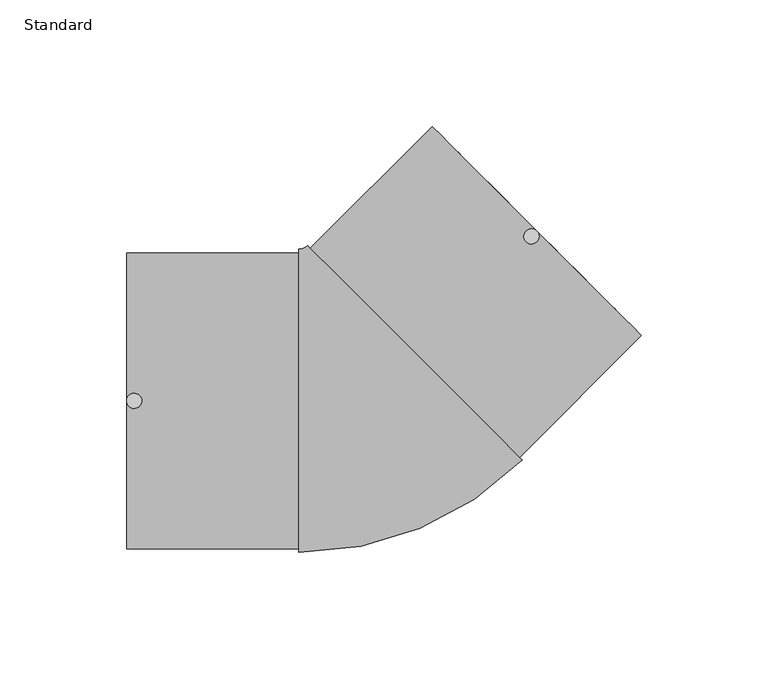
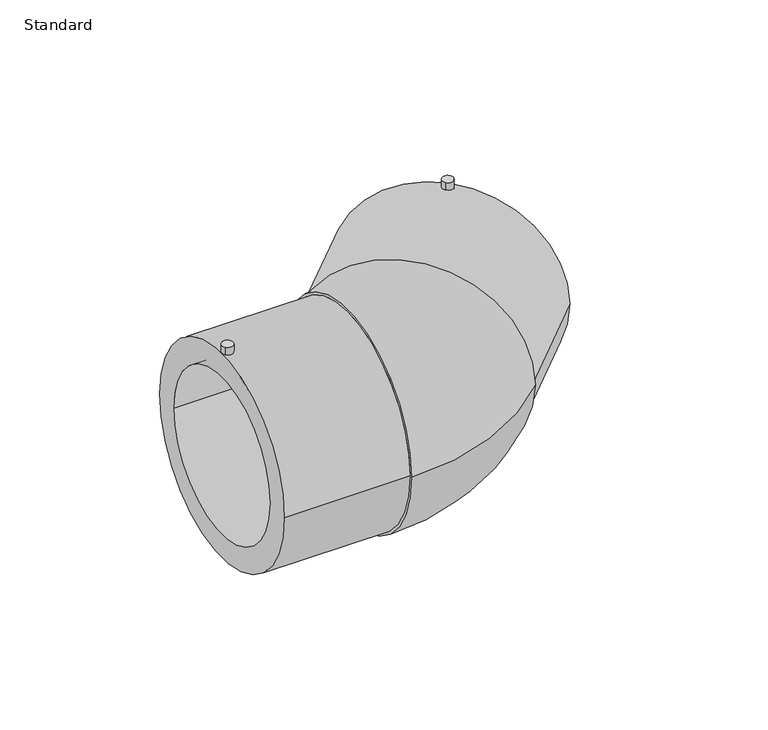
"""IFC4 building model written with IfcOpenShell, lengths in millimetres: pipe fitting geometry, EGB_VASEN_ PPR_Codo electrosoldable 90 WXRD200_Codo electrosoldable 45 WXRD220 : Standard."""

from ifc_helpers import new_model, si_unit, point, frame, frame_2d, origin, place, context, project, spatial, polyline, circle_curve, ellipse_curve, trimmed, segment, composite_curve, outline, extrude, source, transform, mapped, element, save
from ifc_brep_helpers import plane_surface, cylinder_surface, revolved_surface, advanced_brep


def standard_f251de4d(model_context):
    return source(origin(), model_context, "Body", "SolidModel", [
        advanced_brep(
        [(-95.0, -58.5, 0.0), (-95.0, 58.5, 0.0), (-95.0, -45.0, 0.0), (-95.0, 45.0, 0.0), (-26.8528137, -58.5, 0.0), (-26.8528137, 58.5, 0.0), (-26.8528137, -45.0, 0.0), (-26.8528137, 45.0, 0.0), (-26.8528137, -60.0, 0.0), (-26.8528137, 60.0, 0.0), (61.4142136, -23.4386002, 0.0), (-23.4386002, 61.4142136, 0.0), (60.3535534, -22.37794, 0.0), (-22.37794, 60.3535534, 0.0), (50.8076118, -12.8319985, 0.0), (-12.8319985, 50.8076118, 0.0), (108.5408909, 25.8093975, 0.0), (25.8093975, 108.5408909, 0.0), (98.9949494, 35.3553391, 0.0), (35.3553391, 98.9949494, 0.0)],
        [
            (0, 1, circle_curve(frame((-95.0, 0.0, 0.0), z_axis=(-1.0, 0.0, 0.0), x_axis=(0.0, 1.0, 0.0)), 58.5)),
            (1, 0, circle_curve(frame((-95.0, 0.0, 0.0), z_axis=(-1.0, 0.0, 0.0), x_axis=(0.0, 1.0, 0.0)), 58.5)),
            (2, 3, circle_curve(frame((-95.0, 0.0, 0.0), z_axis=(1.0, 0.0, 0.0), x_axis=(0.0, 1.0, 0.0)), 45.0)),
            (3, 2, circle_curve(frame((-95.0, 0.0, 0.0), z_axis=(1.0, 0.0, 0.0), x_axis=(0.0, 1.0, 0.0)), 45.0)),
            (0, 4),
            (4, 5, circle_curve(frame((-26.8528137, 0.0, 0.0), z_axis=(-1.0, 0.0, 0.0), x_axis=(0.0, 1.0, 0.0)), 58.5)),
            (5, 1),
            (5, 4, circle_curve(frame((-26.8528137, 0.0, 0.0), z_axis=(-1.0, 0.0, 0.0), x_axis=(0.0, 1.0, 0.0)), 58.5)),
            (2, 6),
            (6, 7, circle_curve(frame((-26.8528137, 0.0, 0.0), z_axis=(1.0, 0.0, 0.0), x_axis=(0.0, 1.0, 0.0)), 45.0)),
            (7, 3),
            (7, 6, circle_curve(frame((-26.8528137, 0.0, 0.0), z_axis=(1.0, 0.0, 0.0), x_axis=(0.0, 1.0, 0.0)), 45.0)),
            (8, 9, circle_curve(frame((-26.8528137, 0.0, 0.0), z_axis=(-1.0, 0.0, 0.0), x_axis=(0.0, 1.0, 0.0)), 60.0)),
            (9, 8, circle_curve(frame((-26.8528137, 0.0, 0.0), z_axis=(-1.0, 0.0, 0.0), x_axis=(0.0, 1.0, 0.0)), 60.0)),
            (10, 11, circle_curve(frame((18.9878067, 18.9878067, 0.0), z_axis=(0.7071067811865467, 0.7071067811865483, 0.0), x_axis=(-0.7071067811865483, 0.7071067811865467, 0.0)), 60.0)),
            (11, 10, circle_curve(frame((18.9878067, 18.9878067, 0.0), z_axis=(0.7071067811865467, 0.7071067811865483, 0.0), x_axis=(-0.7071067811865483, 0.7071067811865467, 0.0)), 60.0)),
            (12, 13, circle_curve(frame((18.9878067, 18.9878067, 0.0), z_axis=(-0.7071067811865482, -0.7071067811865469, 0.0), x_axis=(-0.7071067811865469, 0.7071067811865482, 0.0)), 58.5)),
            (13, 12, circle_curve(frame((18.9878067, 18.9878067, 0.0), z_axis=(-0.7071067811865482, -0.7071067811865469, 0.0), x_axis=(-0.7071067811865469, 0.7071067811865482, 0.0)), 58.5)),
            (14, 15, circle_curve(frame((18.9878067, 18.9878067, 0.0), z_axis=(0.7071067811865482, 0.7071067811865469, 0.0), x_axis=(-0.7071067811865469, 0.7071067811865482, 0.0)), 45.0)),
            (15, 14, circle_curve(frame((18.9878067, 18.9878067, 0.0), z_axis=(0.7071067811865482, 0.7071067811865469, 0.0), x_axis=(-0.7071067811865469, 0.7071067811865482, 0.0)), 45.0)),
            (8, 10, circle_curve(frame((-26.8528137, 64.8284271, 0.0), z_axis=(0.0, 0.0, 1.0), x_axis=(0.0, -1.0, 0.0)), 124.8284271)),
            (11, 9, circle_curve(frame((-26.8528137, 64.8284271, 0.0), z_axis=(0.0, 0.0, -1.0), x_axis=(0.0, -1.0, 0.0)), 4.8284271)),
            (16, 17, circle_curve(frame((67.1751442, 67.1751442, 0.0), z_axis=(0.7071067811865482, 0.7071067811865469, 0.0), x_axis=(-0.7071067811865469, 0.7071067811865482, 0.0)), 58.5)),
            (17, 16, circle_curve(frame((67.1751442, 67.1751442, 0.0), z_axis=(0.7071067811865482, 0.7071067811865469, 0.0), x_axis=(-0.7071067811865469, 0.7071067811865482, 0.0)), 58.5)),
            (18, 19, circle_curve(frame((67.1751442, 67.1751442, 0.0), z_axis=(-0.7071067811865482, -0.7071067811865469, 0.0), x_axis=(-0.7071067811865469, 0.7071067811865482, 0.0)), 45.0)),
            (19, 18, circle_curve(frame((67.1751442, 67.1751442, 0.0), z_axis=(-0.7071067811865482, -0.7071067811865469, 0.0), x_axis=(-0.7071067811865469, 0.7071067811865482, 0.0)), 45.0)),
            (17, 13),
            (12, 16),
            (19, 15),
            (14, 18),
        ],
        [
            plane_surface(frame((-95.0, 0.0, 0.0), z_axis=(-1.0, 0.0, 0.0), x_axis=(0.0, 0.0, 1.0))),
            cylinder_surface(frame((-95.0, 0.0, 0.0), z_axis=(-1.0, 0.0, 0.0), x_axis=(0.0, 1.0, 0.0)), 58.5),
            revolved_surface(polyline([(-26.8528137, 45.0, 0.0), (-95.0, 45.0, 0.0)]), (-95.0, 0.0, 0.0), (1.0, 0.0, 0.0)),
            plane_surface(frame((-26.8528137, 0.0, 0.0), z_axis=(-1.0, 0.0, 0.0), x_axis=(0.0, 0.0, 1.0))),
            plane_surface(frame((18.9878067, 18.9878067, 0.0), z_axis=(0.7071067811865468, 0.7071067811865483, 0.0), x_axis=(0.0, 0.0, 1.0))),
            revolved_surface(trimmed(ellipse_curve(frame((-26.8528137, 0.0, 0.0), z_axis=(-1.0, 0.0, 0.0), x_axis=(0.0, 1.0, 0.0)), 60.0, 60.0), [point((-26.8528137, -60.0, 0.0))], [point((-26.8528137, 60.0, 0.0))], True, "CARTESIAN"), (-26.8528137, 64.8284271, 0.0), (0.0, 0.0, 1.0)),
            revolved_surface(trimmed(ellipse_curve(frame((-26.8528137, 0.0, 0.0), z_axis=(-1.0, 0.0, 0.0), x_axis=(0.0, 1.0, 0.0)), 60.0, 60.0), [point((-26.8528137, 60.0, 0.0))], [point((-26.8528137, -60.0, 0.0))], True, "CARTESIAN"), (-26.8528137, 64.8284271, 0.0), (0.0, 0.0, 1.0)),
            plane_surface(frame((67.1751442, 67.1751442, 0.0), z_axis=(0.7071067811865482, 0.7071067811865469, 0.0), x_axis=(0.0, 0.0, 1.0))),
            cylinder_surface(frame((18.9878067, 18.9878067, 0.0), z_axis=(-0.7071067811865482, -0.7071067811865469, 0.0), x_axis=(-0.7071067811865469, 0.7071067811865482, 0.0)), 58.5),
            revolved_surface(polyline([(35.35533909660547, 98.99494940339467, 0.0), (-12.831998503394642, 50.80761180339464, 0.0)]), (18.9878067, 18.9878067, 0.0), (0.7071067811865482, 0.7071067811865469, 0.0)),
        ],
        [
            (0, [[1, 2], [3, 4]]),
            (1, [[-1, 5, 6, 7]]),
            (1, [[-2, -7, 8, -5]]),
            (2, [[-3, 9, 10, 11]]),
            (2, [[-4, -11, 12, -9]]),
            (3, [[-10, -12]]),
            (3, [[13, 14], [-6, -8]]),
            (4, [[15, 16], [17, 18]]),
            (4, [[19, 20]]),
            (5, [[-13, 21, -16, 22]]),
            (6, [[-14, -22, -15, -21]]),
            (7, [[23, 24], [25, 26]]),
            (8, [[-24, 27, -17, 28]]),
            (8, [[-23, -28, -18, -27]]),
            (9, [[-26, 29, -19, 30]]),
            (9, [[-25, -30, -20, -29]]),
        ],
    ),
        extrude(outline(composite_curve([segment(trimmed(circle_curve(frame_2d((65.0538239, 65.0538239)), 3.0), [point((62.9325035, 62.9325035))], [point((67.1751442, 67.1751442))], False, "CARTESIAN"), True, "CONTINUOUS"), segment(trimmed(circle_curve(frame_2d((65.0538239, 65.0538239)), 3.0), [point((67.1751442, 67.1751442))], [point((62.9325035, 62.9325035))], False, "CARTESIAN"), True, "CONTINUOUS")], self_intersect=False)), frame((0.0, 0.0, 46.0), z_axis=(0.0, 0.0, 1.0), x_axis=(1.0, 0.0, 0.0)), (0.0, 0.0, 1.0), 17.0),
        extrude(outline(composite_curve([segment(trimmed(circle_curve(frame_2d((-92.0, 0.0)), 3.0), [point((-94.1213203, -2.1213203))], [point((-89.8786797, 2.1213203))], False, "CARTESIAN"), True, "CONTINUOUS"), segment(trimmed(circle_curve(frame_2d((-92.0, 0.0)), 3.0), [point((-89.8786797, 2.1213203))], [point((-94.1213203, -2.1213203))], False, "CARTESIAN"), True, "CONTINUOUS")], self_intersect=False)), frame((0.0, 0.0, 46.0), z_axis=(0.0, 0.0, 1.0), x_axis=(1.0, 0.0, 0.0)), (0.0, 0.0, 1.0), 17.0),
    ])


if __name__ == "__main__":
    model = new_model("IFC4")
    model_context = context("Model", 3, world=origin())
    ifc_project = project(units=[si_unit("LENGTHUNIT", "METRE", prefix="MILLI")], contexts=[model_context])
    site = spatial("IfcSite", under=ifc_project)
    building = spatial("IfcBuilding", under=site)
    placement = place(None, origin())
    standard_shape = standard_f251de4d(model_context)
    element("IfcPipeFitting", 1, ObjectType="EGB_VASEN_ PPR_Codo electrosoldable 90 WXRD200_Codo electrosoldable 45 WXRD220 : Standard", at=placement, inside=building, context=model_context, shape_type="MappedRepresentation", body=[
        mapped(standard_shape, transform((0.0, 0.0, 0.0), x_axis=(1.0, 0.0, 0.0), y_axis=(0.0, 1.0, 0.0), z_axis=(0.0, 0.0, 1.0))),
    ])
    save(model, "model.ifc")
